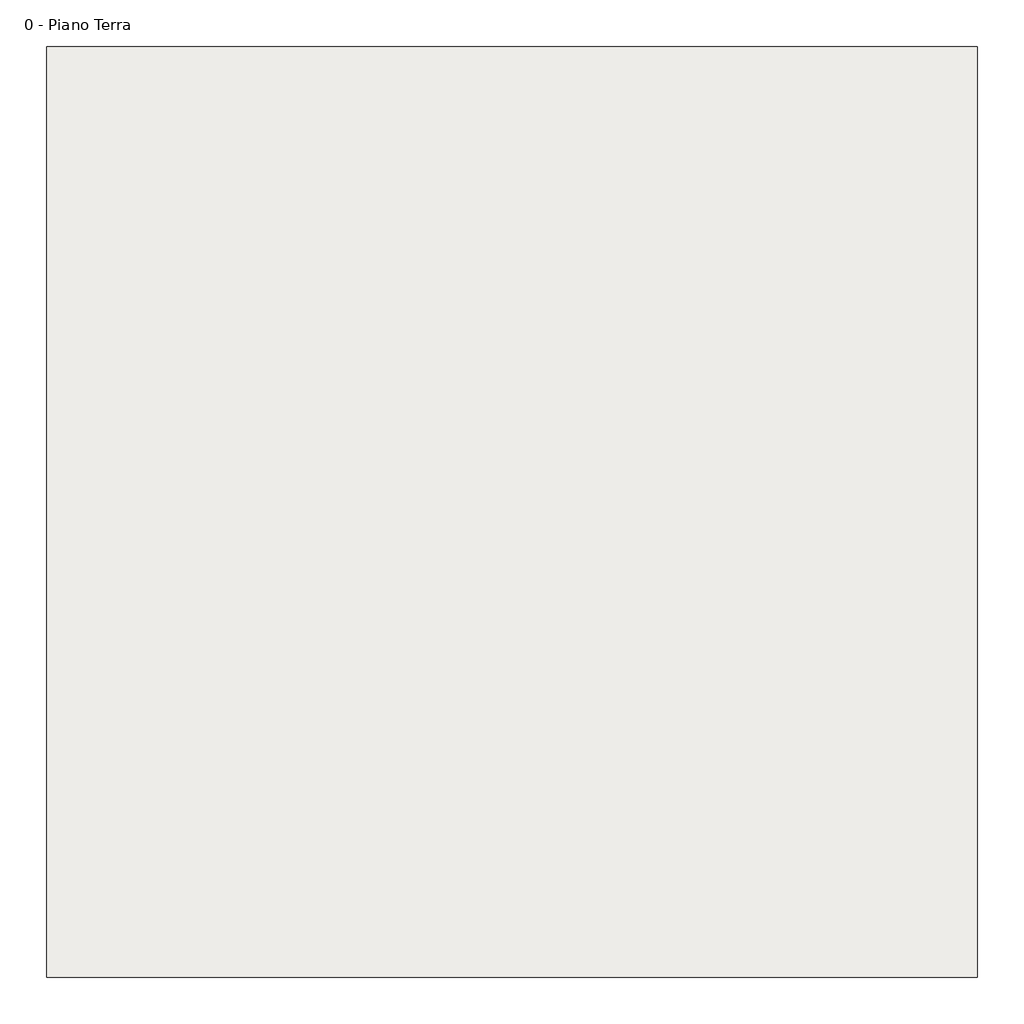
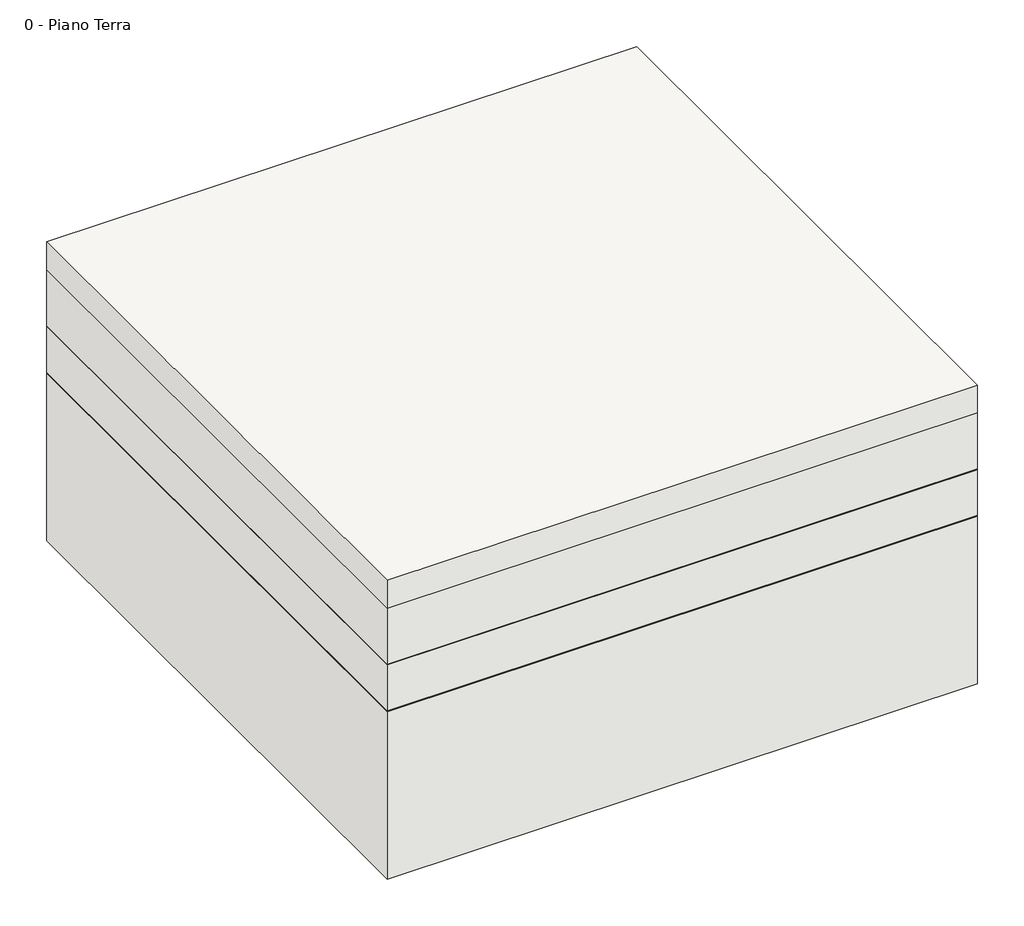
# One storey: 1 roof.
"""IFC4 building model written with IfcOpenShell, lengths in millimetres."""

from ifc_helpers import new_model, si_unit, frame, origin, place, context, project, spatial, polyline, outline, extrude, element, save

model = new_model("IFC4")

# Units and contexts
model_context = context("Model", 3, world=origin())
ifc_project = project(units=[si_unit("LENGTHUNIT", "METRE", prefix="MILLI")], contexts=[model_context])

# Site, building, storey
site = spatial("IfcSite", under=ifc_project)
building = spatial("IfcBuilding", under=site)
storey = spatial("IfcBuildingStorey", under=building, Name="0 - Piano Terra", Elevation=0.0)

# Roof
placement = place(None, origin())
element("IfcRoof", 1, ObjectType="DAKU_ESTENSIVO PLUS", at=placement, inside=storey, context=model_context, shape_type="SweptSolid", body=[
    extrude(outline(polyline([(-577.9721405, 368.8308162), (422.0278595, 368.8308162), (422.0278595, -631.1691838), (-577.9721405, -631.1691838), (-577.9721405, 368.8308162)])), frame((0.0, 0.0, 55.0), z_axis=(0.0, 0.0, 1.0), x_axis=(1.0, 0.0, 0.0)), (0.0, 0.0, 1.0), 50.0),
    extrude(outline(polyline([(-577.9721405, 368.8308162), (422.0278595, 368.8308162), (422.0278595, -631.1691838), (-577.9721405, -631.1691838), (-577.9721405, 368.8308162)])), frame((0.0, 0.0, -45.0), z_axis=(0.0, 0.0, 1.0), x_axis=(1.0, 0.0, 0.0)), (0.0, 0.0, 1.0), 100.0),
    extrude(outline(polyline([(-577.9721405, 368.8308162), (422.0278595, 368.8308162), (422.0278595, -631.1691838), (-577.9721405, -631.1691838), (-577.9721405, 368.8308162)])), frame((0.0, 0.0, -46.3), z_axis=(0.0, 0.0, 1.0), x_axis=(1.0, 0.0, 0.0)), (0.0, 0.0, 1.0), 1.3),
    extrude(outline(polyline([(-577.9721405, 368.8308162), (422.0278595, 368.8308162), (422.0278595, -631.1691838), (-577.9721405, -631.1691838), (-577.9721405, 368.8308162)])), frame((0.0, 0.0, -128.3), z_axis=(0.0, 0.0, 1.0), x_axis=(1.0, 0.0, 0.0)), (0.0, 0.0, 1.0), 82.0),
    extrude(outline(polyline([(-577.9721405, 368.8308162), (422.0278595, 368.8308162), (422.0278595, -631.1691838), (-577.9721405, -631.1691838), (-577.9721405, 368.8308162)])), frame((0.0, 0.0, -130.0), z_axis=(0.0, 0.0, 1.0), x_axis=(1.0, 0.0, 0.0)), (0.0, 0.0, 1.0), 1.7),
    extrude(outline(polyline([(-577.9721405, 368.8308162), (422.0278595, 368.8308162), (422.0278595, -631.1691838), (-577.9721405, -631.1691838), (-577.9721405, 368.8308162)])), frame((0.0, 0.0, -430.0), z_axis=(0.0, 0.0, 1.0), x_axis=(1.0, 0.0, 0.0)), (0.0, 0.0, 1.0), 300.0),
])

save(model, "model.ifc")
